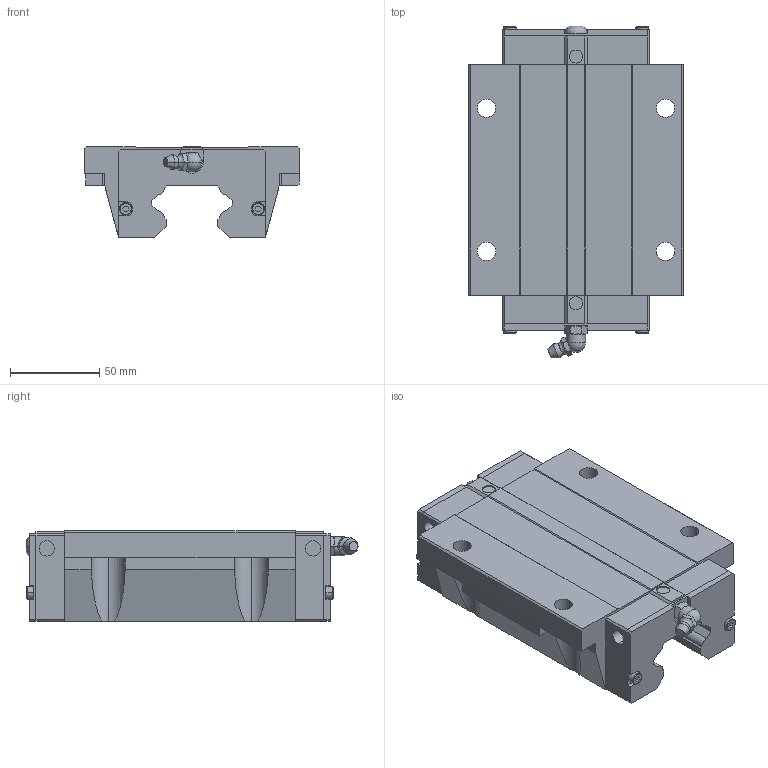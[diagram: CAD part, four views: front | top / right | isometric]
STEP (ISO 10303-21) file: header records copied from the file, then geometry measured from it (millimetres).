
FILE_DESCRIPTION(('no description'),'unknown implementation level');
FILE_NAME('QHW45HC_Z0_H_SS_23.stp',' ',('HIWIN GmbH'),('CADClick - KiM GmbH - www.kimweb.de'),'unknown preprocess','ACIS','unknown authorization');
FILE_SCHEMA(('automotive_design'));
Length unit declared in the file: millimetre
Products named in the file (1): QHW45HC Z0 H SS
Bounding box: 120 x 185.52 x 50.8 mm (x, y, z)
Volume: 624083.6 mm3; surface area: 77312.3 mm2
Topology: 1 solids, 6 shells, 315 faces, 824 edges, 530 vertices
Faces by surface type: plane 201, cylinder 68, torus 30, cone 14, sphere 2
Entity records: 19124 total; most frequent: CARTESIAN_POINT 1968, STYLED_ITEM 1668, PRESENTATION_STYLE_ASSIGNMENT 1668, COLOUR_RGB 1668, ORIENTED_EDGE 1644, DIRECTION 1636, EDGE_CURVE 822, CURVE_STYLE 822
